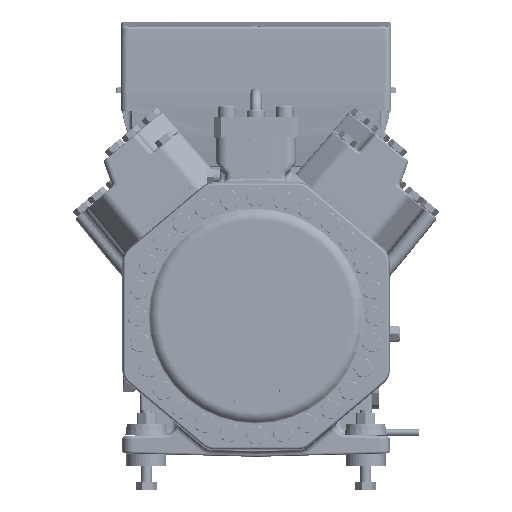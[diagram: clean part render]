
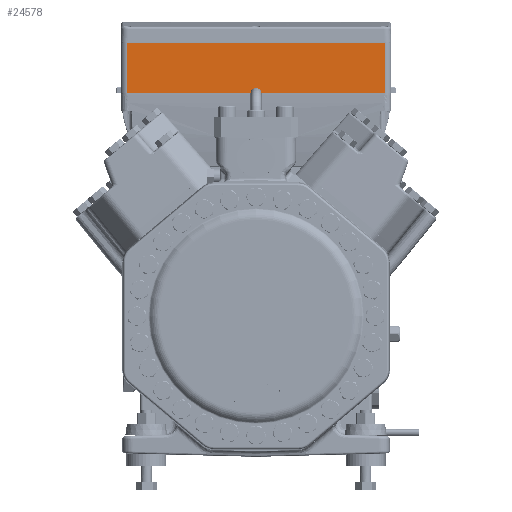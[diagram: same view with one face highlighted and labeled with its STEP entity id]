
A CAD part, front view. The second image highlights one B-rep face of the part: STEP entity #24578.
In plain terms, the highlighted planar face has unit normal (0, -1, 0) as drawn and (1, 0, 0) by its records, which use the part's own axes.
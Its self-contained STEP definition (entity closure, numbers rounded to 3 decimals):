
#24578=ADVANCED_FACE('',(#34434),#28188,.T.);
#28188=PLANE('',#145920);
#34434=FACE_OUTER_BOUND('',#42773,.T.);
#42773=EDGE_LOOP('',(#91662,#91663,#91664,#91665));
#56992=LINE('',#252558,#62538);
#57092=LINE('',#253188,#62638);
#57093=LINE('',#253191,#62639);
#57094=LINE('',#253192,#62640);
#62538=VECTOR('',#172030,1.);
#62638=VECTOR('',#172314,1.);
#62639=VECTOR('',#172315,1.);
#62640=VECTOR('',#172316,1.);
#91662=ORIENTED_EDGE('',*,*,#126311,.F.);
#91663=ORIENTED_EDGE('',*,*,#126312,.T.);
#91664=ORIENTED_EDGE('',*,*,#126115,.T.);
#91665=ORIENTED_EDGE('',*,*,#126313,.T.);
#109081=VERTEX_POINT('',#252557);
#109082=VERTEX_POINT('',#252559);
#109260=VERTEX_POINT('',#253189);
#109261=VERTEX_POINT('',#253190);
#126115=EDGE_CURVE('',#109082,#109081,#56992,.T.);
#126311=EDGE_CURVE('',#109260,#109261,#57092,.T.);
#126312=EDGE_CURVE('',#109260,#109082,#57093,.T.);
#126313=EDGE_CURVE('',#109081,#109261,#57094,.T.);
#145920=AXIS2_PLACEMENT_3D('',#253193,#172317,#172318);
#172030=DIRECTION('',(0.,1.,0.));
#172314=DIRECTION('',(0.,1.,0.));
#172315=DIRECTION('',(0.,0.,-1.));
#172316=DIRECTION('',(0.,0.,1.));
#172317=DIRECTION('',(1.,0.,0.));
#172318=DIRECTION('',(0.,0.,1.));
#252557=CARTESIAN_POINT('',(73.,116.,66.));
#252558=CARTESIAN_POINT('',(73.,0.,66.));
#252559=CARTESIAN_POINT('',(73.,-116.,66.));
#253188=CARTESIAN_POINT('',(73.,0.,111.5));
#253189=CARTESIAN_POINT('',(73.,-116.,111.5));
#253190=CARTESIAN_POINT('',(73.,116.,111.5));
#253191=CARTESIAN_POINT('',(73.,-116.,114.));
#253192=CARTESIAN_POINT('',(73.,116.,114.));
#253193=CARTESIAN_POINT('',(73.,0.,114.));
